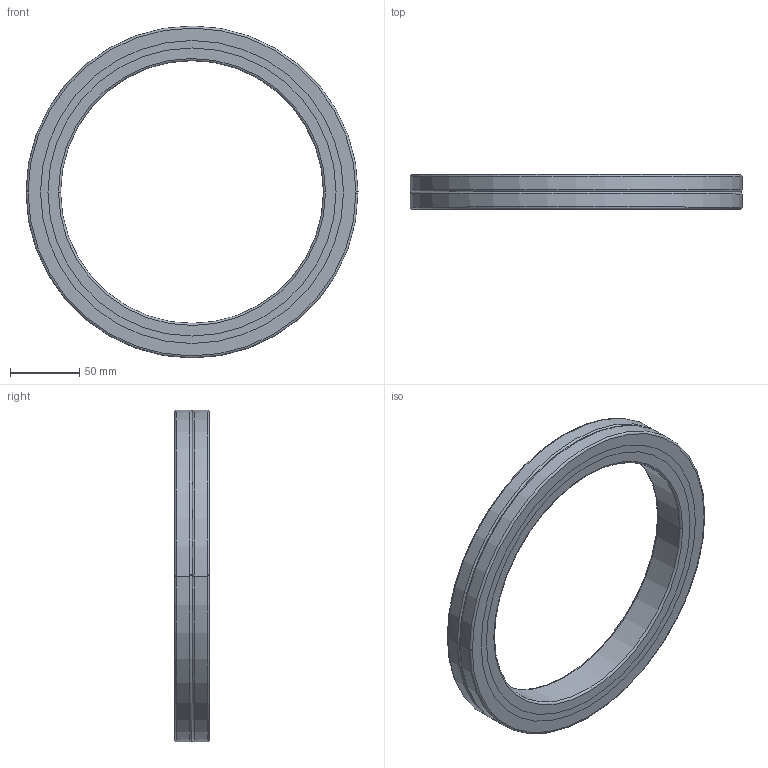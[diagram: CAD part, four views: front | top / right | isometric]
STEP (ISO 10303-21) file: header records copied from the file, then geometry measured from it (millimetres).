
FILE_DESCRIPTION(('no description'),'unknown implementation level');
FILE_NAME('CRBA19025_38.stp',' ',('HIWIN GmbH'),('CADClick - KiM GmbH - www.kimweb.de'),'unknown preprocess','ACIS','unknown authorization');
FILE_SCHEMA(('automotive_design'));
Length unit declared in the file: millimetre
Products named in the file (5): CRBA19025_1; CRBA19025_2; CRBA19025_3; CRBA19025_4; CRBA19025
Bounding box: 240 x 25 x 240 mm (x, y, z)
Volume: 347648.1 mm3; surface area: 127482.8 mm2
Topology: 5 solids, 5 shells, 54 faces, 120 edges, 76 vertices
Faces by surface type: torus 24, cylinder 20, plane 10
Entity records: 3096 total; most frequent: DIRECTION 338, STYLED_ITEM 255, PRESENTATION_STYLE_ASSIGNMENT 255, CARTESIAN_POINT 255, COLOUR_RGB 255, ORIENTED_EDGE 240, AXIS2_PLACEMENT_3D 159, EDGE_CURVE 120
